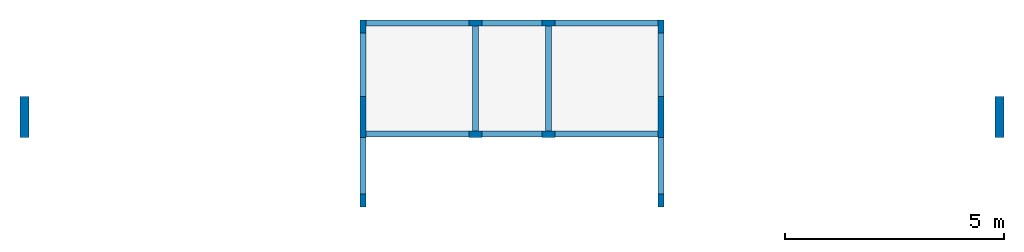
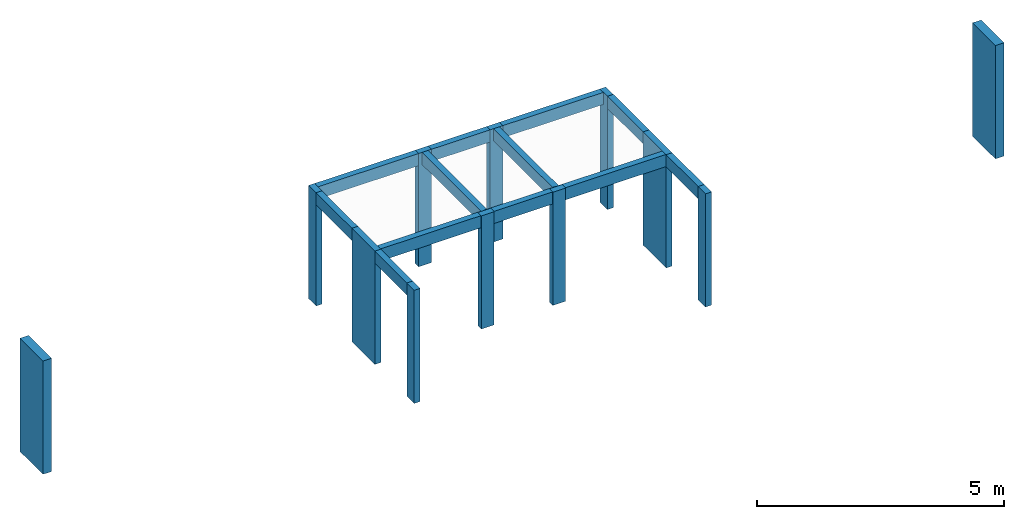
# One storey, part 1 of 2: 12 beams, 12 columns.
"""IFC4 building model written with IfcOpenShell, lengths in centimetres."""

from ifc_helpers import new_model, si_unit, derived_unit, frame, origin_with_axes, origin_2d_with_axis, place, context, project, spatial, rectangle, extrude, material, element, save


model = new_model("IFC4")

# Units and contexts
model_context = context("Model", 3, precision=1e-05, world=origin_with_axes(), identifier="Body")
ifc_project = project(units=[si_unit("LENGTHUNIT", "METRE", prefix="CENTI"), si_unit("VOLUMEUNIT", "CUBIC_METRE"), si_unit("AREAUNIT", "SQUARE_METRE"), si_unit("POWERUNIT", "WATT"), si_unit("LUMINOUSFLUXUNIT", "LUMEN"), si_unit("ELECTRICCURRENTUNIT", "AMPERE"), si_unit("PRESSUREUNIT", "PASCAL", prefix="KILO"), si_unit("MASSUNIT", "GRAM", prefix="KILO"), si_unit("PLANEANGLEUNIT", "RADIAN"), derived_unit("VOLUMETRICFLOWRATEUNIT", [(si_unit("LENGTHUNIT", "METRE"), 3), (si_unit("TIMEUNIT", "SECOND"), -1)])], contexts=[model_context])

# Site, building, storey
site_placement = place(None, origin_with_axes())
site = spatial("IfcSite", under=ifc_project, at=site_placement)
building_placement = place(site_placement, frame((0.0, 0.0, -170.0)))
building = spatial("IfcBuilding", under=site, at=building_placement)
placement_1 = place(building_placement, origin_with_axes())
placement_2 = place(placement_1, frame((0.0, 0.0, 170.0), z_axis=(0.0, 0.0, 1.0), x_axis=(1.0, 0.0, 0.0)))
storey_placement = place(placement_2, frame((0.0, 0.0, 280.0), z_axis=(0.0, 0.0, 1.0), x_axis=(1.0, 0.0, 0.0)))
storey = spatial("IfcBuildingStorey", under=building, at=storey_placement, Name="Respalto", CompositionType="ELEMENT", Elevation=280.0)

# Columns
ifc_material = material(Name="Concreto")
column_1_placement = place(storey_placement, frame((2073.56, 377.0, 0.0), z_axis=(0.0, 0.0, 1.0), x_axis=(1.0, 0.0, 0.0)))
element("IfcColumn", 1, at=column_1_placement, inside=storey, material=ifc_material, Name="P11", context=model_context, shape_type="SolidModel", body=[
    extrude(rectangle(XDim=14.0, YDim=30.0, at=origin_2d_with_axis()), origin_with_axes(), (0.0, 0.0, -1.0), 280.0),
])
for number, where, z_axis, x_axis, name in (
    (2, (2330.56, 385.0, 0.0), (0.0, 0.0, 1.0), (1.0, 0.0, 0.0), "P12"),
    (3, (2497.56, 385.0, 0.0), (0.0, 0.0, 1.0), (1.0, 0.0, 0.0), "P13"),
):
    element("IfcColumn", number, at=place(storey_placement, frame(where, z_axis=z_axis, x_axis=x_axis)), inside=storey, material=ifc_material, Name=name, context=model_context, shape_type="SolidModel", body=[
        extrude(rectangle(XDim=14.0, YDim=30.0, at=origin_2d_with_axis()), frame((0.0, 0.0, 0.0), z_axis=(0.0, 0.0, 1.0), x_axis=(0.0, -1.0, 0.0)), (0.0, 0.0, -1.0), 280.0),
    ])
column_2_placement = place(storey_placement, frame((2754.56, 377.0, 0.0), z_axis=(0.0, 0.0, 1.0), x_axis=(1.0, 0.0, 0.0)))
element("IfcColumn", 4, at=column_2_placement, inside=storey, material=ifc_material, Name="P14", context=model_context, shape_type="SolidModel", body=[
    extrude(rectangle(XDim=14.0, YDim=30.0, at=origin_2d_with_axis()), frame((0.0, 0.0, 0.0), z_axis=(0.0, 0.0, 1.0), x_axis=(-1.0, 0.0, 0.0)), (0.0, 0.0, -1.0), 280.0),
])
column_3_placement = place(storey_placement, frame((1300.56, 170.5, 0.0), z_axis=(0.0, 0.0, 1.0), x_axis=(1.0, 0.0, 0.0)))
element("IfcColumn", 5, at=column_3_placement, inside=storey, material=ifc_material, Name="P44", context=model_context, shape_type="SolidModel", body=[
    extrude(rectangle(XDim=20.0, YDim=93.0, at=origin_2d_with_axis()), frame((0.0, 0.0, 0.0), z_axis=(0.0, 0.0, 1.0), x_axis=(-1.0, 0.0, 0.0)), (0.0, 0.0, -1.0), 280.0),
])
for number, where, z_axis, x_axis, name in (
    (6, (2073.56, 170.5, 0.0), (0.0, 0.0, 1.0), (1.0, 0.0, 0.0), "P47"),
    (7, (2754.56, 170.5, 0.0), (0.0, 0.0, 1.0), (1.0, 0.0, 0.0), "P48"),
):
    element("IfcColumn", number, at=place(storey_placement, frame(where, z_axis=z_axis, x_axis=x_axis)), inside=storey, material=ifc_material, Name=name, context=model_context, shape_type="SolidModel", body=[
        extrude(rectangle(XDim=14.0, YDim=93.0, at=origin_2d_with_axis()), origin_with_axes(), (0.0, 0.0, -1.0), 280.0),
    ])
column_4_placement = place(storey_placement, frame((3527.56, 170.5, 0.0), z_axis=(0.0, 0.0, 1.0), x_axis=(1.0, 0.0, 0.0)))
element("IfcColumn", 8, at=column_4_placement, inside=storey, material=ifc_material, Name="P51", context=model_context, shape_type="SolidModel", body=[
    extrude(rectangle(XDim=20.0, YDim=93.0, at=origin_2d_with_axis()), frame((0.0, 0.0, 0.0), z_axis=(0.0, 0.0, 1.0), x_axis=(-1.0, 0.0, 0.0)), (0.0, 0.0, -1.0), 280.0),
])
for number, where, z_axis, x_axis, name in (
    (9, (2330.56, 131.0, 0.0), (0.0, 0.0, 1.0), (1.0, 0.0, 0.0), "P64"),
    (10, (2497.56, 131.0, 0.0), (0.0, 0.0, 1.0), (1.0, 0.0, 0.0), "P65"),
):
    element("IfcColumn", number, at=place(storey_placement, frame(where, z_axis=z_axis, x_axis=x_axis)), inside=storey, material=ifc_material, Name=name, context=model_context, shape_type="SolidModel", body=[
        extrude(rectangle(XDim=14.0, YDim=30.0, at=origin_2d_with_axis()), frame((0.0, 0.0, 0.0), z_axis=(0.0, 0.0, 1.0), x_axis=(0.0, -1.0, 0.0)), (0.0, 0.0, -1.0), 280.0),
    ])
column_5_placement = place(storey_placement, frame((2073.57, -20.5, 0.0), z_axis=(0.0, 0.0, 1.0), x_axis=(1.0, 0.0, 0.0)))
element("IfcColumn", 11, at=column_5_placement, inside=storey, material=ifc_material, Name="P85", context=model_context, shape_type="SolidModel", body=[
    extrude(rectangle(XDim=14.0, YDim=30.0, at=origin_2d_with_axis()), frame((0.0, 0.0, 0.0), z_axis=(0.0, 0.0, 1.0), x_axis=(-1.0, 0.0, 0.0)), (0.0, 0.0, -1.0), 280.0),
])
column_6_placement = place(storey_placement, frame((2754.56, -20.5, 0.0), z_axis=(0.0, 0.0, 1.0), x_axis=(1.0, 0.0, 0.0)))
element("IfcColumn", 12, at=column_6_placement, inside=storey, material=ifc_material, Name="P86", context=model_context, shape_type="SolidModel", body=[
    extrude(rectangle(XDim=14.0, YDim=30.0, at=origin_2d_with_axis()), origin_with_axes(), (0.0, 0.0, -1.0), 280.0),
])

# Beams
beam_1_placement = place(storey_placement, frame((2198.06, 385.0, 0.0), z_axis=(0.0, 0.0, 1.0), x_axis=(1.0, 0.0, 0.0)))
element("IfcBeam", 13, at=beam_1_placement, inside=storey, material=ifc_material, Name="V1", context=model_context, shape_type="SolidModel", body=[
    extrude(rectangle(XDim=14.0, YDim=30.0, at=origin_2d_with_axis()), frame((-117.5, 0.0, -15.0), z_axis=(1.0, 0.0, 0.0), x_axis=(0.0, 1.0, 0.0)), (0.0, 0.0, 1.0), 235.0),
])
beam_2_placement = place(storey_placement, frame((2414.06, 385.0, 0.0), z_axis=(0.0, 0.0, 1.0), x_axis=(1.0, 0.0, 0.0)))
element("IfcBeam", 14, at=beam_2_placement, inside=storey, material=ifc_material, Name="V1", context=model_context, shape_type="SolidModel", body=[
    extrude(rectangle(XDim=14.0, YDim=30.0, at=origin_2d_with_axis()), frame((-68.5, 0.0, -15.0), z_axis=(1.0, 0.0, 0.0), x_axis=(0.0, 1.0, 0.0)), (0.0, 0.0, 1.0), 137.0),
])
beam_3_placement = place(storey_placement, frame((2630.06, 385.0, 0.0), z_axis=(0.0, 0.0, 1.0), x_axis=(1.0, 0.0, 0.0)))
element("IfcBeam", 15, at=beam_3_placement, inside=storey, material=ifc_material, Name="V1", context=model_context, shape_type="SolidModel", body=[
    extrude(rectangle(XDim=14.0, YDim=30.0, at=origin_2d_with_axis()), frame((-117.5, 0.0, -15.0), z_axis=(1.0, 0.0, 0.0), x_axis=(0.0, 1.0, 0.0)), (0.0, 0.0, 1.0), 235.0),
])
beam_4_placement = place(storey_placement, frame((2205.56, 132.0, 0.0), z_axis=(0.0, 0.0, 1.0), x_axis=(1.0, 0.0, 0.0)))
element("IfcBeam", 16, at=beam_4_placement, inside=storey, material=ifc_material, Name="V2", context=model_context, shape_type="SolidModel", body=[
    extrude(rectangle(XDim=14.0, YDim=30.0, at=origin_2d_with_axis()), frame((-125.0, 0.0, -15.0), z_axis=(1.0, 0.0, 0.0), x_axis=(0.0, 1.0, 0.0)), (0.0, 0.0, 1.0), 250.0),
])
beam_5_placement = place(storey_placement, frame((2414.06, 132.0, 0.0), z_axis=(0.0, 0.0, 1.0), x_axis=(1.0, 0.0, 0.0)))
element("IfcBeam", 17, at=beam_5_placement, inside=storey, material=ifc_material, Name="V2", context=model_context, shape_type="SolidModel", body=[
    extrude(rectangle(XDim=14.0, YDim=30.0, at=origin_2d_with_axis()), frame((-83.5, 0.0, -15.0), z_axis=(1.0, 0.0, 0.0), x_axis=(0.0, 1.0, 0.0)), (0.0, 0.0, 1.0), 167.0),
])
beam_6_placement = place(storey_placement, frame((2622.56, 132.0, 0.0), z_axis=(0.0, 0.0, 1.0), x_axis=(1.0, 0.0, 0.0)))
element("IfcBeam", 18, at=beam_6_placement, inside=storey, material=ifc_material, Name="V2", context=model_context, shape_type="SolidModel", body=[
    extrude(rectangle(XDim=14.0, YDim=30.0, at=origin_2d_with_axis()), frame((-125.0, 0.0, -15.0), z_axis=(1.0, 0.0, 0.0), x_axis=(0.0, 1.0, 0.0)), (0.0, 0.0, 1.0), 250.0),
])
beam_7_placement = place(storey_placement, frame((2073.56, 289.5, 0.0), z_axis=(0.0, 0.0, 1.0), x_axis=(1.0, 0.0, 0.0)))
element("IfcBeam", 19, at=beam_7_placement, inside=storey, material=ifc_material, Name="V3", context=model_context, shape_type="SolidModel", body=[
    extrude(rectangle(XDim=14.0, YDim=30.0, at=origin_2d_with_axis()), frame((0.0, -72.5, -15.0), z_axis=(0.0, 1.0, 0.0), x_axis=(1.0, 0.0, 0.0)), (0.0, 0.0, 1.0), 145.0),
])
beam_8_placement = place(storey_placement, frame((2073.56, 59.25, 0.0), z_axis=(0.0, 0.0, 1.0), x_axis=(1.0, 0.0, 0.0)))
element("IfcBeam", 20, at=beam_8_placement, inside=storey, material=ifc_material, Name="V3", context=model_context, shape_type="SolidModel", body=[
    extrude(rectangle(XDim=14.0, YDim=30.0, at=origin_2d_with_axis()), frame((0.0, -64.75, -15.0), z_axis=(0.0, 1.0, 0.0), x_axis=(1.0, 0.0, 0.0)), (0.0, 0.0, 1.0), 129.5),
])
for number, where, z_axis, x_axis, name in (
    (21, (2330.56, 258.0, 0.0), (0.0, 0.0, 1.0), (1.0, 0.0, 0.0), "V4"),
    (22, (2497.56, 258.0, 0.0), (0.0, 0.0, 1.0), (1.0, 0.0, 0.0), "V5"),
):
    element("IfcBeam", number, at=place(storey_placement, frame(where, z_axis=z_axis, x_axis=x_axis)), inside=storey, material=ifc_material, Name=name, context=model_context, shape_type="SolidModel", body=[
        extrude(rectangle(XDim=14.0, YDim=30.0, at=origin_2d_with_axis()), frame((0.0, -120.0, -15.0), z_axis=(0.0, 1.0, 0.0), x_axis=(1.0, 0.0, 0.0)), (0.0, 0.0, 1.0), 240.0),
    ])
beam_9_placement = place(storey_placement, frame((2754.56, 289.5, 0.0), z_axis=(0.0, 0.0, 1.0), x_axis=(1.0, 0.0, 0.0)))
element("IfcBeam", 23, at=beam_9_placement, inside=storey, material=ifc_material, Name="V6", context=model_context, shape_type="SolidModel", body=[
    extrude(rectangle(XDim=14.0, YDim=30.0, at=origin_2d_with_axis()), frame((0.0, -72.5, -15.0), z_axis=(0.0, 1.0, 0.0), x_axis=(1.0, 0.0, 0.0)), (0.0, 0.0, 1.0), 145.0),
])
beam_10_placement = place(storey_placement, frame((2754.56, 59.25, 0.0), z_axis=(0.0, 0.0, 1.0), x_axis=(1.0, 0.0, 0.0)))
element("IfcBeam", 24, at=beam_10_placement, inside=storey, material=ifc_material, Name="V6", context=model_context, shape_type="SolidModel", body=[
    extrude(rectangle(XDim=14.0, YDim=30.0, at=origin_2d_with_axis()), frame((0.0, -64.75, -15.0), z_axis=(0.0, 1.0, 0.0), x_axis=(1.0, 0.0, 0.0)), (0.0, 0.0, 1.0), 129.5),
])

save(model, "model.ifc")
